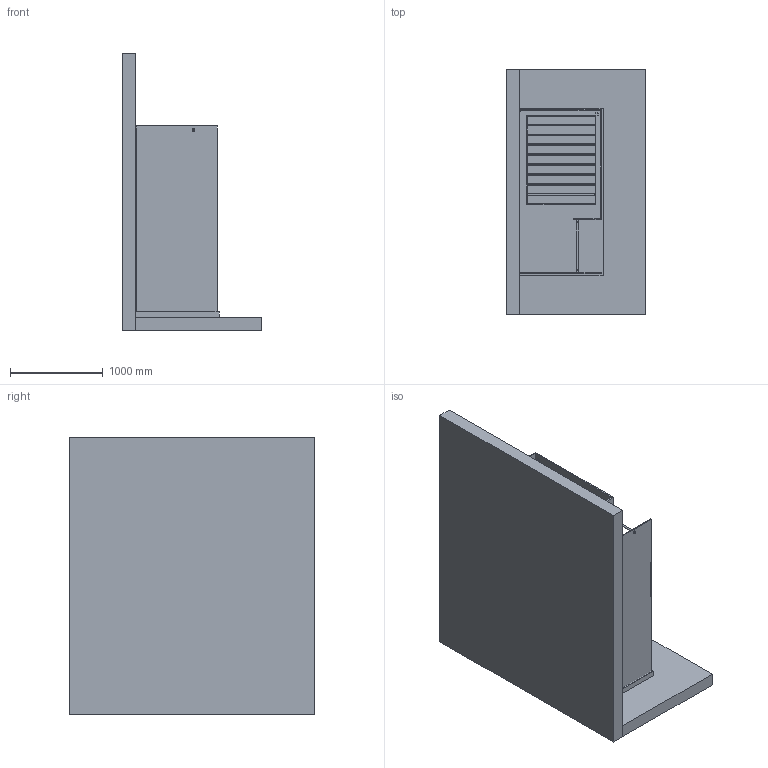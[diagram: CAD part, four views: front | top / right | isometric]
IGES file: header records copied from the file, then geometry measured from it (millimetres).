
Global section: file name: \\Archi-NAS\Comune\X GIOVANNI\SCHEDE PRODOTTO\BOX DOCCIA\DISEGNI 3D\ST 400\MOMA DESIGN_BOX DOCCIA_ST401.igs; native system: Rhinoceros ( Jan 17 2018 ); preprocessor: Trout Lake IGES 012 Jan 17 2018; date: 230622.154551; units: millimetre
Bounding box: 1502.28 x 2641.25 x 2983.36 mm (x, y, z)
Surface area: 44021640.4 mm2 (no closed solid volume)
Topology: 0 solids, 0 shells, 377 faces, 2039 edges, 2247 vertices
Faces by surface type: bspline 377
